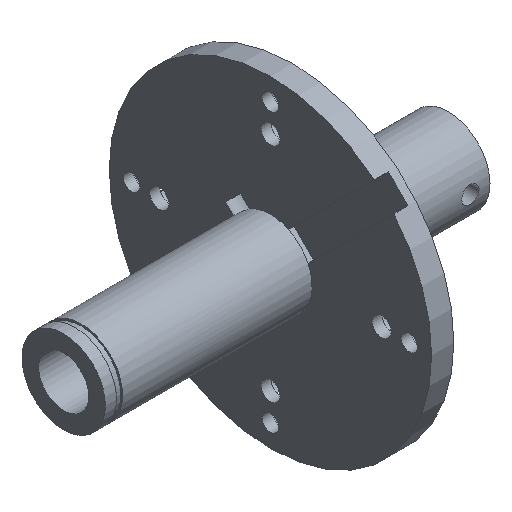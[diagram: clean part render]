
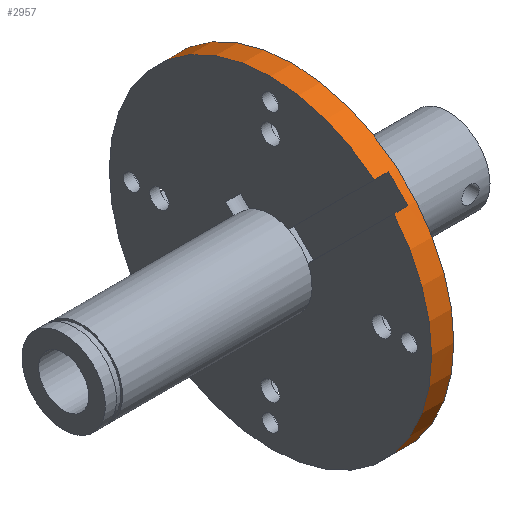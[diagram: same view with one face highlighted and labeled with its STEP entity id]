
A CAD part, isometric view. The second image highlights one B-rep face of the part: STEP entity #2957.
In plain terms, the highlighted cylindrical face has radius 29 mm (diameter 58 mm), a full revolution.
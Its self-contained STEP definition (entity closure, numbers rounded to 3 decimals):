
#1915 = PLANE('',#1916);
#1916 = AXIS2_PLACEMENT_3D('',#1917,#1918,#1919);
#1917 = CARTESIAN_POINT('',(14.9,0.,0.)
  );
#1918 = DIRECTION('',(1.,0.,0.));
#1919 = DIRECTION('',(-0.,0.,1.));
#2142 = PLANE('',#2143);
#2143 = AXIS2_PLACEMENT_3D('',#2144,#2145,#2146);
#2144 = CARTESIAN_POINT('',(14.89,-1.768,5.303));
#2145 = DIRECTION('',(0.,0.707,0.707));
#2146 = DIRECTION('',(0.,-0.707,0.707));
#2201 = PLANE('',#2202);
#2202 = AXIS2_PLACEMENT_3D('',#2203,#2204,#2205);
#2203 = CARTESIAN_POINT('',(14.89,-5.303,1.768));
#2204 = DIRECTION('',(0.,0.707,0.707));
#2205 = DIRECTION('',(0.,-0.707,0.707));
#2354 = VERTEX_POINT('',#2355);
#2355 = CARTESIAN_POINT('',(14.9,-22.198,18.662));
#2374 = EDGE_CURVE('',#2354,#2375,#2377,.T.);
#2375 = VERTEX_POINT('',#2376);
#2376 = CARTESIAN_POINT('',(14.9,29.,0.));
#2377 = SURFACE_CURVE('',#2378,(#2383,#2390),.PCURVE_S1.);
#2378 = CIRCLE('',#2379,29.);
#2379 = AXIS2_PLACEMENT_3D('',#2380,#2381,#2382);
#2380 = CARTESIAN_POINT('',(14.9,0.,0.));
#2381 = DIRECTION('',(1.,0.,0.));
#2382 = DIRECTION('',(0.,1.,0.));
#2383 = PCURVE('',#1915,#2384);
#2384 = DEFINITIONAL_REPRESENTATION('',(#2385),#2389);
#2385 = CIRCLE('',#2386,29.);
#2386 = AXIS2_PLACEMENT_2D('',#2387,#2388);
#2387 = CARTESIAN_POINT('',(0.,0.));
#2388 = DIRECTION('',(0.,-1.));
#2389 = ( GEOMETRIC_REPRESENTATION_CONTEXT(2) 
PARAMETRIC_REPRESENTATION_CONTEXT() REPRESENTATION_CONTEXT('2D SPACE',''
  ) );
#2390 = PCURVE('',#2391,#2396);
#2391 = CYLINDRICAL_SURFACE('',#2392,29.);
#2392 = AXIS2_PLACEMENT_3D('',#2393,#2394,#2395);
#2393 = CARTESIAN_POINT('',(14.9,0.,0.));
#2394 = DIRECTION('',(-1.,-0.,-0.));
#2395 = DIRECTION('',(0.,1.,0.));
#2396 = DEFINITIONAL_REPRESENTATION('',(#2397),#2401);
#2397 = LINE('',#2398,#2399);
#2398 = CARTESIAN_POINT('',(-0.,0.));
#2399 = VECTOR('',#2400,1.);
#2400 = DIRECTION('',(-1.,0.));
#2401 = ( GEOMETRIC_REPRESENTATION_CONTEXT(2) 
PARAMETRIC_REPRESENTATION_CONTEXT() REPRESENTATION_CONTEXT('2D SPACE',''
  ) );
#2403 = EDGE_CURVE('',#2375,#2404,#2406,.T.);
#2404 = VERTEX_POINT('',#2405);
#2405 = CARTESIAN_POINT('',(14.9,-18.662,22.198));
#2406 = SURFACE_CURVE('',#2407,(#2412,#2419),.PCURVE_S1.);
#2407 = CIRCLE('',#2408,29.);
#2408 = AXIS2_PLACEMENT_3D('',#2409,#2410,#2411);
#2409 = CARTESIAN_POINT('',(14.9,0.,0.));
#2410 = DIRECTION('',(1.,0.,0.));
#2411 = DIRECTION('',(0.,1.,0.));
#2412 = PCURVE('',#1915,#2413);
#2413 = DEFINITIONAL_REPRESENTATION('',(#2414),#2418);
#2414 = CIRCLE('',#2415,29.);
#2415 = AXIS2_PLACEMENT_2D('',#2416,#2417);
#2416 = CARTESIAN_POINT('',(0.,0.));
#2417 = DIRECTION('',(0.,-1.));
#2418 = ( GEOMETRIC_REPRESENTATION_CONTEXT(2) 
PARAMETRIC_REPRESENTATION_CONTEXT() REPRESENTATION_CONTEXT('2D SPACE',''
  ) );
#2419 = PCURVE('',#2391,#2420);
#2420 = DEFINITIONAL_REPRESENTATION('',(#2421),#2425);
#2421 = LINE('',#2422,#2423);
#2422 = CARTESIAN_POINT('',(-0.,0.));
#2423 = VECTOR('',#2424,1.);
#2424 = DIRECTION('',(-1.,0.));
#2425 = ( GEOMETRIC_REPRESENTATION_CONTEXT(2) 
PARAMETRIC_REPRESENTATION_CONTEXT() REPRESENTATION_CONTEXT('2D SPACE',''
  ) );
#2706 = VERTEX_POINT('',#2707);
#2707 = CARTESIAN_POINT('',(17.4,-22.198,18.662));
#2721 = PLANE('',#2722);
#2722 = AXIS2_PLACEMENT_3D('',#2723,#2724,#2725);
#2723 = CARTESIAN_POINT('',(17.4,-5.303,1.768));
#2724 = DIRECTION('',(1.,0.,0.));
#2725 = DIRECTION('',(0.,-0.707,0.707));
#2784 = EDGE_CURVE('',#2706,#2354,#2785,.T.);
#2785 = SURFACE_CURVE('',#2786,(#2790,#2796),.PCURVE_S1.);
#2786 = LINE('',#2787,#2788);
#2787 = CARTESIAN_POINT('',(14.9,-22.198,18.662));
#2788 = VECTOR('',#2789,1.);
#2789 = DIRECTION('',(-1.,-0.,-0.));
#2790 = PCURVE('',#2201,#2791);
#2791 = DEFINITIONAL_REPRESENTATION('',(#2792),#2795);
#2792 = B_SPLINE_CURVE_WITH_KNOTS('',1,(#2793,#2794),.UNSPECIFIED.,.F.,
  .F.,(2,2),(-2.751,0.),.PIECEWISE_BEZIER_KNOTS.);
#2793 = CARTESIAN_POINT('',(23.892,2.761));
#2794 = CARTESIAN_POINT('',(23.892,0.01));
#2795 = ( GEOMETRIC_REPRESENTATION_CONTEXT(2) 
PARAMETRIC_REPRESENTATION_CONTEXT() REPRESENTATION_CONTEXT('2D SPACE',''
  ) );
#2796 = PCURVE('',#2391,#2797);
#2797 = DEFINITIONAL_REPRESENTATION('',(#2798),#2801);
#2798 = B_SPLINE_CURVE_WITH_KNOTS('',1,(#2799,#2800),.UNSPECIFIED.,.F.,
  .F.,(2,2),(-2.751,0.),.PIECEWISE_BEZIER_KNOTS.);
#2799 = CARTESIAN_POINT('',(-2.443,-2.751));
#2800 = CARTESIAN_POINT('',(-2.443,0.));
#2801 = ( GEOMETRIC_REPRESENTATION_CONTEXT(2) 
PARAMETRIC_REPRESENTATION_CONTEXT() REPRESENTATION_CONTEXT('2D SPACE',''
  ) );
#2858 = VERTEX_POINT('',#2859);
#2859 = CARTESIAN_POINT('',(17.4,-18.662,22.198));
#2904 = EDGE_CURVE('',#2858,#2404,#2905,.T.);
#2905 = SURFACE_CURVE('',#2906,(#2910,#2916),.PCURVE_S1.);
#2906 = LINE('',#2907,#2908);
#2907 = CARTESIAN_POINT('',(14.9,-18.662,22.198));
#2908 = VECTOR('',#2909,1.);
#2909 = DIRECTION('',(-1.,-0.,-0.));
#2910 = PCURVE('',#2142,#2911);
#2911 = DEFINITIONAL_REPRESENTATION('',(#2912),#2915);
#2912 = B_SPLINE_CURVE_WITH_KNOTS('',1,(#2913,#2914),.UNSPECIFIED.,.F.,
  .F.,(2,2),(-2.751,0.),.PIECEWISE_BEZIER_KNOTS.);
#2913 = CARTESIAN_POINT('',(23.892,2.761));
#2914 = CARTESIAN_POINT('',(23.892,0.01));
#2915 = ( GEOMETRIC_REPRESENTATION_CONTEXT(2) 
PARAMETRIC_REPRESENTATION_CONTEXT() REPRESENTATION_CONTEXT('2D SPACE',''
  ) );
#2916 = PCURVE('',#2391,#2917);
#2917 = DEFINITIONAL_REPRESENTATION('',(#2918),#2921);
#2918 = B_SPLINE_CURVE_WITH_KNOTS('',1,(#2919,#2920),.UNSPECIFIED.,.F.,
  .F.,(2,2),(-2.751,0.),.PIECEWISE_BEZIER_KNOTS.);
#2919 = CARTESIAN_POINT('',(-2.27,-2.751));
#2920 = CARTESIAN_POINT('',(-2.27,0.));
#2921 = ( GEOMETRIC_REPRESENTATION_CONTEXT(2) 
PARAMETRIC_REPRESENTATION_CONTEXT() REPRESENTATION_CONTEXT('2D SPACE',''
  ) );
#2957 = ADVANCED_FACE('',(#2958),#2391,.T.);
#2958 = FACE_BOUND('',#2959,.F.);
#2959 = EDGE_LOOP('',(#2960,#2961,#2984,#3011,#3012,#3013,#3014,#3040));
#2960 = ORIENTED_EDGE('',*,*,#2403,.F.);
#2961 = ORIENTED_EDGE('',*,*,#2962,.T.);
#2962 = EDGE_CURVE('',#2375,#2963,#2965,.T.);
#2963 = VERTEX_POINT('',#2964);
#2964 = CARTESIAN_POINT('',(18.9,29.,0.));
#2965 = SEAM_CURVE('',#2966,(#2970,#2977),.PCURVE_S1.);
#2966 = LINE('',#2967,#2968);
#2967 = CARTESIAN_POINT('',(14.9,29.,0.));
#2968 = VECTOR('',#2969,1.);
#2969 = DIRECTION('',(1.,0.,0.));
#2970 = PCURVE('',#2391,#2971);
#2971 = DEFINITIONAL_REPRESENTATION('',(#2972),#2976);
#2972 = LINE('',#2973,#2974);
#2973 = CARTESIAN_POINT('',(-6.283,0.));
#2974 = VECTOR('',#2975,1.);
#2975 = DIRECTION('',(-0.,-1.));
#2976 = ( GEOMETRIC_REPRESENTATION_CONTEXT(2) 
PARAMETRIC_REPRESENTATION_CONTEXT() REPRESENTATION_CONTEXT('2D SPACE',''
  ) );
#2977 = PCURVE('',#2391,#2978);
#2978 = DEFINITIONAL_REPRESENTATION('',(#2979),#2983);
#2979 = LINE('',#2980,#2981);
#2980 = CARTESIAN_POINT('',(-0.,0.));
#2981 = VECTOR('',#2982,1.);
#2982 = DIRECTION('',(-0.,-1.));
#2983 = ( GEOMETRIC_REPRESENTATION_CONTEXT(2) 
PARAMETRIC_REPRESENTATION_CONTEXT() REPRESENTATION_CONTEXT('2D SPACE',''
  ) );
#2984 = ORIENTED_EDGE('',*,*,#2985,.T.);
#2985 = EDGE_CURVE('',#2963,#2963,#2986,.T.);
#2986 = SURFACE_CURVE('',#2987,(#2992,#2999),.PCURVE_S1.);
#2987 = CIRCLE('',#2988,29.);
#2988 = AXIS2_PLACEMENT_3D('',#2989,#2990,#2991);
#2989 = CARTESIAN_POINT('',(18.9,0.,0.));
#2990 = DIRECTION('',(1.,0.,0.));
#2991 = DIRECTION('',(0.,1.,0.));
#2992 = PCURVE('',#2391,#2993);
#2993 = DEFINITIONAL_REPRESENTATION('',(#2994),#2998);
#2994 = LINE('',#2995,#2996);
#2995 = CARTESIAN_POINT('',(-0.,-4.));
#2996 = VECTOR('',#2997,1.);
#2997 = DIRECTION('',(-1.,0.));
#2998 = ( GEOMETRIC_REPRESENTATION_CONTEXT(2) 
PARAMETRIC_REPRESENTATION_CONTEXT() REPRESENTATION_CONTEXT('2D SPACE',''
  ) );
#2999 = PCURVE('',#3000,#3005);
#3000 = PLANE('',#3001);
#3001 = AXIS2_PLACEMENT_3D('',#3002,#3003,#3004);
#3002 = CARTESIAN_POINT('',(18.9,0.,0.)
  );
#3003 = DIRECTION('',(1.,0.,0.));
#3004 = DIRECTION('',(-0.,0.,1.));
#3005 = DEFINITIONAL_REPRESENTATION('',(#3006),#3010);
#3006 = CIRCLE('',#3007,29.);
#3007 = AXIS2_PLACEMENT_2D('',#3008,#3009);
#3008 = CARTESIAN_POINT('',(0.,0.));
#3009 = DIRECTION('',(0.,-1.));
#3010 = ( GEOMETRIC_REPRESENTATION_CONTEXT(2) 
PARAMETRIC_REPRESENTATION_CONTEXT() REPRESENTATION_CONTEXT('2D SPACE',''
  ) );
#3011 = ORIENTED_EDGE('',*,*,#2962,.F.);
#3012 = ORIENTED_EDGE('',*,*,#2374,.F.);
#3013 = ORIENTED_EDGE('',*,*,#2784,.F.);
#3014 = ORIENTED_EDGE('',*,*,#3015,.T.);
#3015 = EDGE_CURVE('',#2706,#2858,#3016,.T.);
#3016 = SURFACE_CURVE('',#3017,(#3022,#3029),.PCURVE_S1.);
#3017 = CIRCLE('',#3018,29.);
#3018 = AXIS2_PLACEMENT_3D('',#3019,#3020,#3021);
#3019 = CARTESIAN_POINT('',(17.4,0.,0.));
#3020 = DIRECTION('',(-1.,0.,0.));
#3021 = DIRECTION('',(0.,1.,0.));
#3022 = PCURVE('',#2391,#3023);
#3023 = DEFINITIONAL_REPRESENTATION('',(#3024),#3028);
#3024 = LINE('',#3025,#3026);
#3025 = CARTESIAN_POINT('',(-6.283,-2.5));
#3026 = VECTOR('',#3027,1.);
#3027 = DIRECTION('',(1.,-0.));
#3028 = ( GEOMETRIC_REPRESENTATION_CONTEXT(2) 
PARAMETRIC_REPRESENTATION_CONTEXT() REPRESENTATION_CONTEXT('2D SPACE',''
  ) );
#3029 = PCURVE('',#2721,#3030);
#3030 = DEFINITIONAL_REPRESENTATION('',(#3031),#3039);
#3031 = ( BOUNDED_CURVE() B_SPLINE_CURVE(2,(#3032,#3033,#3034,#3035,
#3036,#3037,#3038),.UNSPECIFIED.,.T.,.F.) B_SPLINE_CURVE_WITH_KNOTS((1,2
    ,2,2,2,1),(-2.094,0.,2.094,4.189,
6.283,8.378),.UNSPECIFIED.) CURVE() 
GEOMETRIC_REPRESENTATION_ITEM() RATIONAL_B_SPLINE_CURVE((1.,0.5,1.,0.5,
1.,0.5,1.)) REPRESENTATION_ITEM('') );
#3032 = CARTESIAN_POINT('',(-25.506,-23.006));
#3033 = CARTESIAN_POINT('',(-61.024,12.512));
#3034 = CARTESIAN_POINT('',(-12.506,25.512));
#3035 = CARTESIAN_POINT('',(36.012,38.512));
#3036 = CARTESIAN_POINT('',(23.012,-10.006));
#3037 = CARTESIAN_POINT('',(10.012,-58.524));
#3038 = CARTESIAN_POINT('',(-25.506,-23.006));
#3039 = ( GEOMETRIC_REPRESENTATION_CONTEXT(2) 
PARAMETRIC_REPRESENTATION_CONTEXT() REPRESENTATION_CONTEXT('2D SPACE',''
  ) );
#3040 = ORIENTED_EDGE('',*,*,#2904,.T.);
